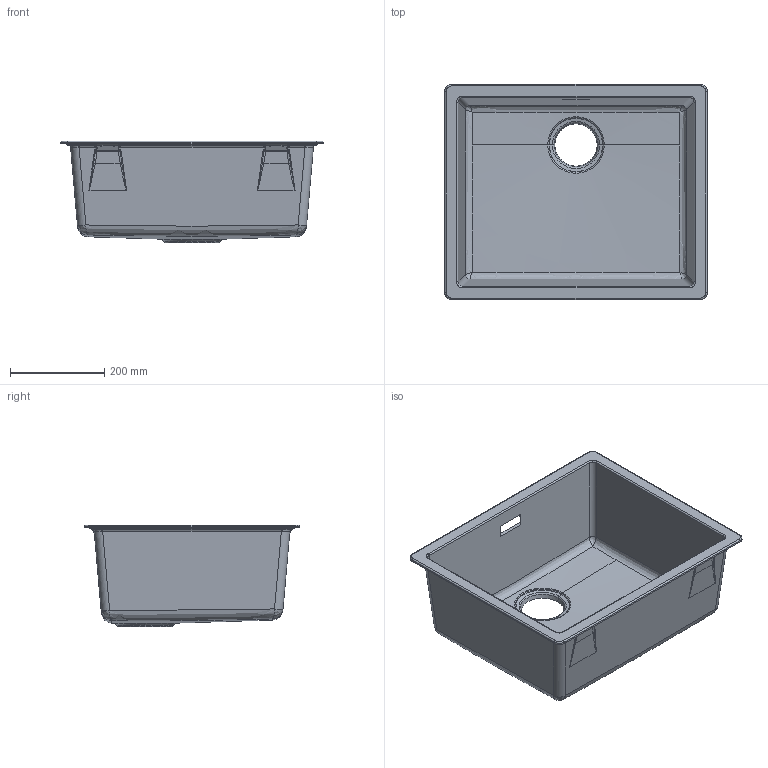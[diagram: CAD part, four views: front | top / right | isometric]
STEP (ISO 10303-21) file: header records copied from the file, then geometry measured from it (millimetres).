
FILE_DESCRIPTION (( 'STEP AP203' ), '1' );
FILE_NAME ('Zen105.STEP', '2018-10-11T10:42:52', ( '' ), ( '' ), 'SwSTEP 2.0', 'SolidWorks 2013', '' );
FILE_SCHEMA (( 'CONFIG_CONTROL_DESIGN' ));
Length unit declared in the file: millimetre
Products named in the file (1): Zen105
Bounding box: 556 x 456 x 215.43 mm (x, y, z)
Volume: 4305549.5 mm3; surface area: 1097487.3 mm2
Topology: 1 solids, 1 shells, 401 faces, 952 edges, 538 vertices
Faces by surface type: bspline 196, cylinder 88, plane 33, torus 32, cone 28, sphere 24
Entity records: 18909 total; most frequent: CARTESIAN_POINT 11144, ORIENTED_EDGE 1856, DIRECTION 1294, EDGE_CURVE 928, AXIS2_PLACEMENT_3D 560, VERTEX_POINT 538, EDGE_LOOP 414, ADVANCED_FACE 401
